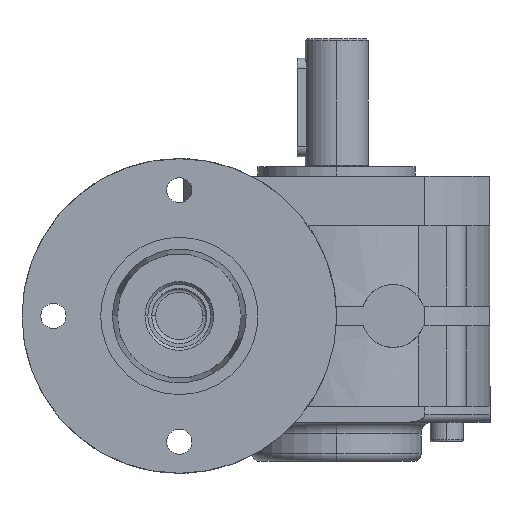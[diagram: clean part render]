
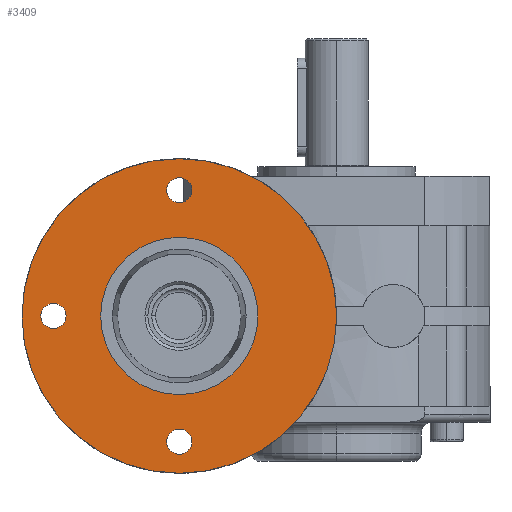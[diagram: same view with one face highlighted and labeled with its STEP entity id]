
A CAD part, left-side view. The second image highlights one B-rep face of the part: STEP entity #3409.
In plain terms, the highlighted planar face has unit normal (-1, 0, 0).
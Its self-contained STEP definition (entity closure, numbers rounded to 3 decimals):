
#1370 = CARTESIAN_POINT ( 'NONE',  ( -48.7, 40., 28.8 ) ) ;
#1554 = CARTESIAN_POINT ( 'NONE',  ( -48.7, 0., 0. ) ) ;
#1570 = DIRECTION ( 'NONE',  ( -1., 0., 0. ) ) ;
#1571 = AXIS2_PLACEMENT_3D ( 'NONE', #1618, #1570, #1608 ) ;
#1608 = DIRECTION ( 'NONE',  ( 0., -1., 0. ) ) ;
#1610 = CARTESIAN_POINT ( 'NONE',  ( -48.7, 40., -35.2 ) ) ;
#1618 = CARTESIAN_POINT ( 'NONE',  ( -48.7, 40., 0. ) ) ;
#1628 = AXIS2_PLACEMENT_3D ( 'NONE', #1651, #1650, #1649 ) ;
#1630 = CIRCLE ( 'NONE', #1667, 3.2 ) ;
#1649 = DIRECTION ( 'NONE',  ( 0., -1., 0. ) ) ;
#1650 = DIRECTION ( 'NONE',  ( -1., 0., 0. ) ) ;
#1651 = CARTESIAN_POINT ( 'NONE',  ( -48.7, 40., 0. ) ) ;
#1653 = CARTESIAN_POINT ( 'NONE',  ( -48.7, 60., 0. ) ) ;
#1666 = CARTESIAN_POINT ( 'NONE',  ( -48.7, 40., -32. ) ) ;
#1667 = AXIS2_PLACEMENT_3D ( 'NONE', #1666, #1668, #1713 ) ;
#1668 = DIRECTION ( 'NONE',  ( 1., 0., 0. ) ) ;
#1674 = CARTESIAN_POINT ( 'NONE',  ( -48.7, 72., 3.2 ) ) ;
#1676 = CARTESIAN_POINT ( 'NONE',  ( -48.7, 72., -3.2 ) ) ;
#1704 = CARTESIAN_POINT ( 'NONE',  ( -48.7, 20., 0. ) ) ;
#1705 = CIRCLE ( 'NONE', #1628, 20. ) ;
#1713 = DIRECTION ( 'NONE',  ( 0., -1., 0. ) ) ;
#1725 = CIRCLE ( 'NONE', #1571, 40. ) ;
#3394 = ORIENTED_EDGE ( 'NONE', *, *, #10501, .T. ) ;
#3395 = ORIENTED_EDGE ( 'NONE', *, *, #10393, .T. ) ;
#3396 = ORIENTED_EDGE ( 'NONE', *, *, #10382, .T. ) ;
#3398 = EDGE_LOOP ( 'NONE', ( #3396, #3394 ) ) ;
#3409 = ADVANCED_FACE ( 'NONE', ( #7527, #7487, #7480, #7543, #7479 ), #7478, .T. ) ;
#3410 = EDGE_LOOP ( 'NONE', ( #3411, #3395 ) ) ;
#3411 = ORIENTED_EDGE ( 'NONE', *, *, #10224, .T. ) ;
#3412 = ORIENTED_EDGE ( 'NONE', *, *, #10244, .T. ) ;
#3413 = EDGE_LOOP ( 'NONE', ( #3467, #3572 ) ) ;
#3414 = ORIENTED_EDGE ( 'NONE', *, *, #10460, .T. ) ;
#3416 = EDGE_LOOP ( 'NONE', ( #3414, #3417 ) ) ;
#3417 = ORIENTED_EDGE ( 'NONE', *, *, #10508, .T. ) ;
#3463 = EDGE_CURVE ( 'NONE', #10268, #10280, #7671, .T. ) ;
#3467 = ORIENTED_EDGE ( 'NONE', *, *, #3463, .F. ) ;
#3497 = ORIENTED_EDGE ( 'NONE', *, *, #10712, .T. ) ;
#3509 = EDGE_LOOP ( 'NONE', ( #3412, #3497 ) ) ;
#3572 = ORIENTED_EDGE ( 'NONE', *, *, #10269, .F. ) ;
#6448 = CARTESIAN_POINT ( 'NONE',  ( -48.7, 80., 0. ) ) ;
#6451 = AXIS2_PLACEMENT_3D ( 'NONE', #6463, #6547, #6546 ) ;
#6456 = CIRCLE ( 'NONE', #6451, 40. ) ;
#6463 = CARTESIAN_POINT ( 'NONE',  ( -48.7, 40., 0. ) ) ;
#6466 = DIRECTION ( 'NONE',  ( 0., -1., 0. ) ) ;
#6467 = DIRECTION ( 'NONE',  ( 1., 0., 0. ) ) ;
#6468 = AXIS2_PLACEMENT_3D ( 'NONE', #6638, #6467, #6466 ) ;
#6469 = CIRCLE ( 'NONE', #6468, 3.2 ) ;
#6546 = DIRECTION ( 'NONE',  ( 0., -1., 0. ) ) ;
#6547 = DIRECTION ( 'NONE',  ( -1., 0., 0. ) ) ;
#6564 = CARTESIAN_POINT ( 'NONE',  ( -48.7, 40., -28.8 ) ) ;
#6638 = CARTESIAN_POINT ( 'NONE',  ( -48.7, 40., 32. ) ) ;
#6641 = CARTESIAN_POINT ( 'NONE',  ( -48.7, 40., 35.2 ) ) ;
#6653 = DIRECTION ( 'NONE',  ( 0., -1., 0. ) ) ;
#6654 = DIRECTION ( 'NONE',  ( 1., 0., 0. ) ) ;
#6655 = CARTESIAN_POINT ( 'NONE',  ( -48.7, 72., 0. ) ) ;
#6656 = AXIS2_PLACEMENT_3D ( 'NONE', #6655, #6654, #6653 ) ;
#6663 = CIRCLE ( 'NONE', #6656, 3.2 ) ;
#6671 = DIRECTION ( 'NONE',  ( 0., -1., 0. ) ) ;
#6672 = DIRECTION ( 'NONE',  ( 1., 0., 0. ) ) ;
#6673 = AXIS2_PLACEMENT_3D ( 'NONE', #6688, #6672, #6671 ) ;
#6688 = CARTESIAN_POINT ( 'NONE',  ( -48.7, 40., 32. ) ) ;
#6697 = CIRCLE ( 'NONE', #6673, 3.2 ) ;
#6786 = DIRECTION ( 'NONE',  ( 0., -1., 0. ) ) ;
#6787 = DIRECTION ( 'NONE',  ( 1., 0., 0. ) ) ;
#6788 = CARTESIAN_POINT ( 'NONE',  ( -48.7, 72., 0. ) ) ;
#6789 = AXIS2_PLACEMENT_3D ( 'NONE', #6788, #6787, #6786 ) ;
#6790 = CIRCLE ( 'NONE', #6789, 3.2 ) ;
#7472 = DIRECTION ( 'NONE',  ( 0., -1., 0. ) ) ;
#7473 = DIRECTION ( 'NONE',  ( -1., 0., 0. ) ) ;
#7474 = CARTESIAN_POINT ( 'NONE',  ( -48.7, 80., 0. ) ) ;
#7478 = PLANE ( 'NONE',  #7538 ) ;
#7479 = FACE_BOUND ( 'NONE', #3398, .T. ) ;
#7480 = FACE_OUTER_BOUND ( 'NONE', #3410, .T. ) ;
#7487 = FACE_BOUND ( 'NONE', #3413, .T. ) ;
#7527 = FACE_BOUND ( 'NONE', #3509, .T. ) ;
#7538 = AXIS2_PLACEMENT_3D ( 'NONE', #7474, #7473, #7472 ) ;
#7543 = FACE_BOUND ( 'NONE', #3416, .T. ) ;
#7648 = DIRECTION ( 'NONE',  ( 0., -1., 0. ) ) ;
#7649 = AXIS2_PLACEMENT_3D ( 'NONE', #7652, #7653, #7648 ) ;
#7652 = CARTESIAN_POINT ( 'NONE',  ( -48.7, 40., 0. ) ) ;
#7653 = DIRECTION ( 'NONE',  ( -1., 0., 0. ) ) ;
#7671 = CIRCLE ( 'NONE', #7649, 20. ) ;
#9686 = DIRECTION ( 'NONE',  ( 0., -1., 0. ) ) ;
#9798 = AXIS2_PLACEMENT_3D ( 'NONE', #9845, #9828, #9686 ) ;
#9826 = CIRCLE ( 'NONE', #9798, 3.2 ) ;
#9828 = DIRECTION ( 'NONE',  ( 1., 0., 0. ) ) ;
#9845 = CARTESIAN_POINT ( 'NONE',  ( -48.7, 40., -32. ) ) ;
#10165 = VERTEX_POINT ( 'NONE', #1370 ) ;
#10166 = VERTEX_POINT ( 'NONE', #1554 ) ;
#10224 = EDGE_CURVE ( 'NONE', #10395, #10166, #1725, .T. ) ;
#10244 = EDGE_CURVE ( 'NONE', #10424, #10259, #1630, .T. ) ;
#10248 = VERTEX_POINT ( 'NONE', #1676 ) ;
#10253 = VERTEX_POINT ( 'NONE', #1674 ) ;
#10259 = VERTEX_POINT ( 'NONE', #1610 ) ;
#10268 = VERTEX_POINT ( 'NONE', #1704 ) ;
#10269 = EDGE_CURVE ( 'NONE', #10280, #10268, #1705, .T. ) ;
#10280 = VERTEX_POINT ( 'NONE', #1653 ) ;
#10382 = EDGE_CURVE ( 'NONE', #10383, #10165, #6469, .T. ) ;
#10383 = VERTEX_POINT ( 'NONE', #6641 ) ;
#10393 = EDGE_CURVE ( 'NONE', #10166, #10395, #6456, .T. ) ;
#10395 = VERTEX_POINT ( 'NONE', #6448 ) ;
#10424 = VERTEX_POINT ( 'NONE', #6564 ) ;
#10460 = EDGE_CURVE ( 'NONE', #10253, #10248, #6790, .T. ) ;
#10501 = EDGE_CURVE ( 'NONE', #10165, #10383, #6697, .T. ) ;
#10508 = EDGE_CURVE ( 'NONE', #10248, #10253, #6663, .T. ) ;
#10712 = EDGE_CURVE ( 'NONE', #10259, #10424, #9826, .T. ) ;
